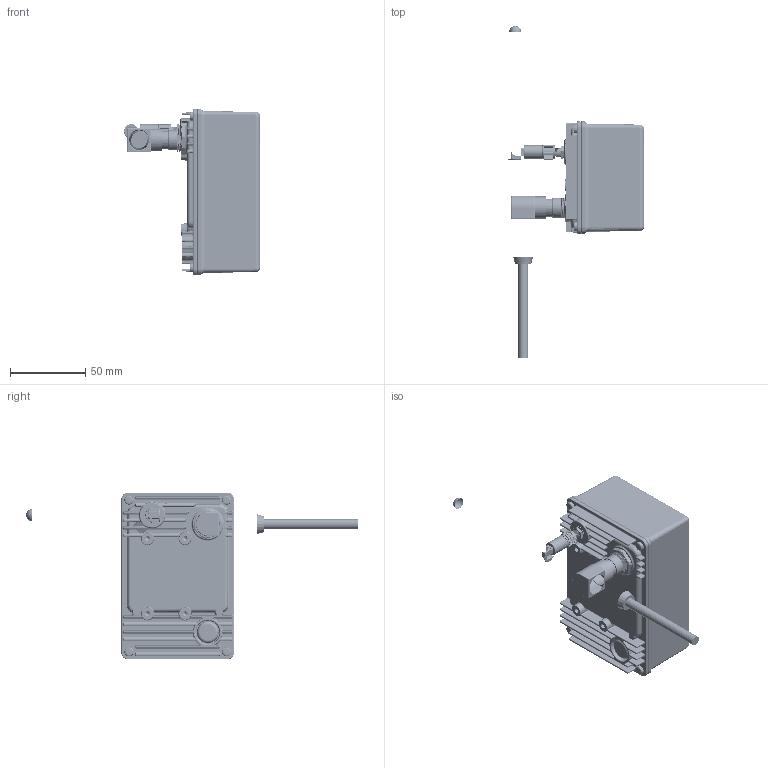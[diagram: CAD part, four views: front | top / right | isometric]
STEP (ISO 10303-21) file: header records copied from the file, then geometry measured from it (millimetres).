
FILE_DESCRIPTION(/* description */ (''),/* implementation_level */ '2;1');
FILE_NAME(/* name */ '10000443_Standard_D.stp',/* time_stamp */ '2023-03-09T09:44:33+01:00',/* author */ ('Menz'),/* organization */ (''),/* preprocessor_version */ 'ST-DEVELOPER v19.2',/* originating_system */ 'Autodesk Inventor 2023',/* authorisation */ '');
FILE_SCHEMA (('AUTOMOTIVE_DESIGN { 1 0 10303 214 3 1 1 }'));
Products named in the file (1): 10000443_simplified
Bounding box: 90.55 x 220.96 x 111 mm (x, y, z)
Volume: 386665.2 mm3; surface area: 80046.2 mm2
Topology: 12 solids, 12 shells, 2460 faces, 6371 edges, 3885 vertices
Faces by surface type: cylinder 923, bspline 494, plane 477, torus 280, cone 180, sphere 106
Full cylindrical faces by diameter (mm): 0.9 x1, 3 x28, 3.242 x4, 4.7 x1, 5.3 x2, 6 x4, 6.5 x2, 7 x1, 7.3 x1, 8.25 x1, 8.5 x1, 9 x2, 9.8 x1, 10.2 x1, 10.5 x1, 10.517 x5, 10.8 x1, 10.9 x1, 12 x1, 12.113 x1, 13 x1, 13.5 x1, 14.4 x1, 15 x1, 20 x1
Entity records: 136862 total; most frequent: CARTESIAN_POINT 77310, ORIENTED_EDGE 12514, DIRECTION 11342, EDGE_CURVE 6257, AXIS2_PLACEMENT_3D 4645, VERTEX_POINT 3885, CIRCLE 2587, EDGE_LOOP 2566
